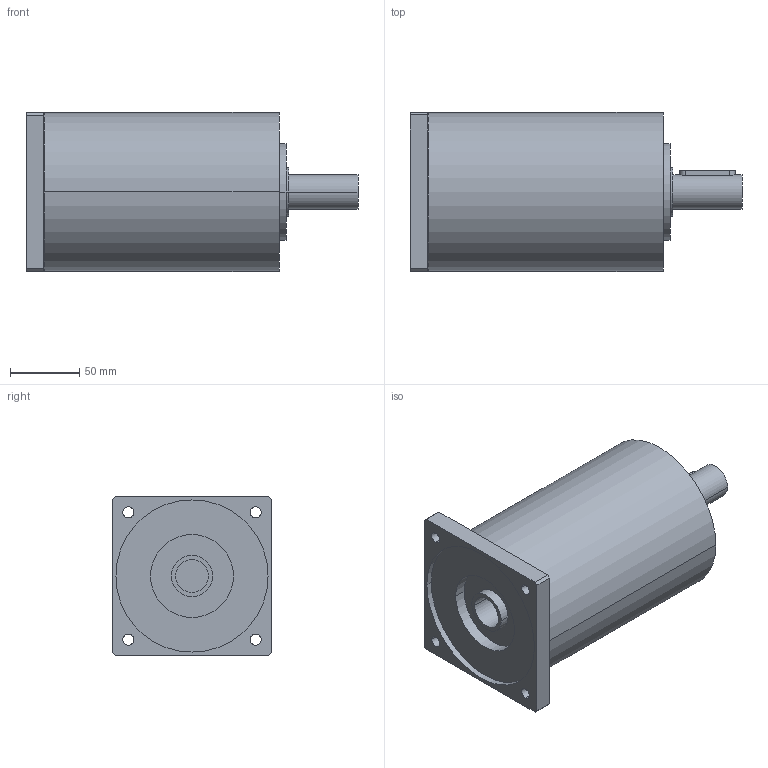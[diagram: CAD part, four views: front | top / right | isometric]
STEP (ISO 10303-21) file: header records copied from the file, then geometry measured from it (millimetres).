
FILE_DESCRIPTION(('CoCreate Modeling STEP Export'),'2;1');
FILE_NAME('GPR125_ig-9-12-16-20-28-35_25_B14_24_P13.stp','2014-08-26T14:11:23',(''),(''),'CoCreate Modeling STEP processor for AP214 (Solid Model)','CoCreate Modeling 16.00C 25-Feb-2009 (C) Parametric Technology GmbH','');
FILE_SCHEMA(('AUTOMOTIVE_DESIGN { 1 0 10303 214 1 1 1 1 }'));
Length unit declared in the file: millimetre
Products named in the file (2): GPR125_ig-9-12-16-20-28-35_25_B14_24_P13
Assembly tree (1 placements, depth 2):
  GPR125_ig-9-12-16-20-28-35_25_B14_24_P13
    GPR125_ig-9-12-16-20-28-35_25_B14_24_P13
Bounding box: 240 x 115 x 115 mm (x, y, z)
Volume: 1889309.9 mm3; surface area: 111077.5 mm2
Topology: 1 solids, 1 shells, 65 faces, 180 edges, 128 vertices
Faces by surface type: cylinder 40, plane 21, cone 4
Entity records: 1853 total; most frequent: ORIENTED_EDGE 356, CARTESIAN_POINT 351, DIRECTION 248, EDGE_CURVE 178, VERTEX_POINT 128, AXIS2_PLACEMENT_3D 93, EDGE_LOOP 86, FACE_OUTER_BOUND 65
